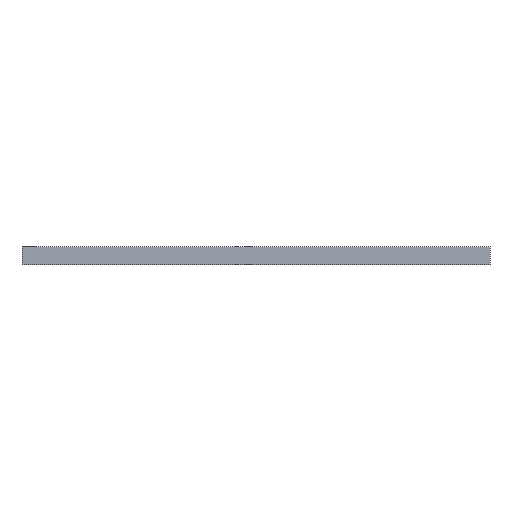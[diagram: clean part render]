
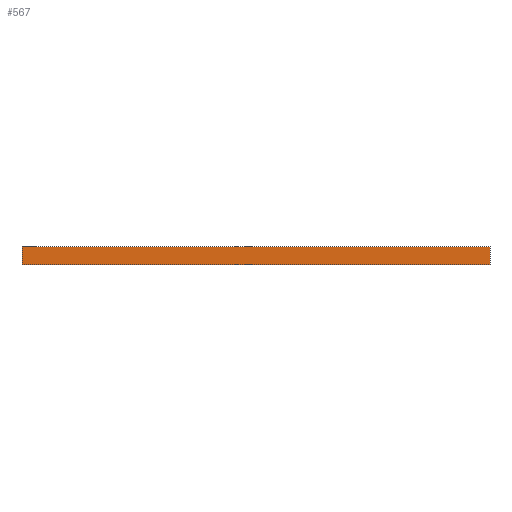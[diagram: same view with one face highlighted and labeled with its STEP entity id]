
A CAD part, front view. The second image highlights one B-rep face of the part: STEP entity #567.
In plain terms, the highlighted planar face has unit normal (0, -1, 0).
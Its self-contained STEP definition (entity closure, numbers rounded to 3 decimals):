
#351 = EDGE_CURVE('',#352,#354,#356,.T.);
#352 = VERTEX_POINT('',#353);
#353 = CARTESIAN_POINT('',(-20.5,-37.,-10.1));
#354 = VERTEX_POINT('',#355);
#355 = CARTESIAN_POINT('',(-20.5,-37.,-8.6));
#356 = SURFACE_CURVE('',#357,(#361,#373),.PCURVE_S1.);
#357 = LINE('',#358,#359);
#358 = CARTESIAN_POINT('',(-20.5,-37.,-10.1));
#359 = VECTOR('',#360,1.);
#360 = DIRECTION('',(0.,0.,1.));
#361 = PCURVE('',#362,#367);
#362 = PLANE('',#363);
#363 = AXIS2_PLACEMENT_3D('',#364,#365,#366);
#364 = CARTESIAN_POINT('',(-20.5,-37.,-10.1));
#365 = DIRECTION('',(1.,0.,0.));
#366 = DIRECTION('',(0.,0.,1.));
#367 = DEFINITIONAL_REPRESENTATION('',(#368),#372);
#368 = LINE('',#369,#370);
#369 = CARTESIAN_POINT('',(0.,0.));
#370 = VECTOR('',#371,1.);
#371 = DIRECTION('',(1.,0.));
#372 = ( GEOMETRIC_REPRESENTATION_CONTEXT(2) 
PARAMETRIC_REPRESENTATION_CONTEXT() REPRESENTATION_CONTEXT('2D SPACE',''
  ) );
#373 = PCURVE('',#374,#379);
#374 = PLANE('',#375);
#375 = AXIS2_PLACEMENT_3D('',#376,#377,#378);
#376 = CARTESIAN_POINT('',(-20.5,-37.,-10.1));
#377 = DIRECTION('',(0.,1.,0.));
#378 = DIRECTION('',(0.,0.,1.));
#379 = DEFINITIONAL_REPRESENTATION('',(#380),#384);
#380 = LINE('',#381,#382);
#381 = CARTESIAN_POINT('',(0.,0.));
#382 = VECTOR('',#383,1.);
#383 = DIRECTION('',(1.,0.));
#384 = ( GEOMETRIC_REPRESENTATION_CONTEXT(2) 
PARAMETRIC_REPRESENTATION_CONTEXT() REPRESENTATION_CONTEXT('2D SPACE',''
  ) );
#402 = PLANE('',#403);
#403 = AXIS2_PLACEMENT_3D('',#404,#405,#406);
#404 = CARTESIAN_POINT('',(-20.5,-37.,-10.1));
#405 = DIRECTION('',(0.,0.,1.));
#406 = DIRECTION('',(1.,0.,0.));
#456 = PLANE('',#457);
#457 = AXIS2_PLACEMENT_3D('',#458,#459,#460);
#458 = CARTESIAN_POINT('',(-20.5,-37.,-8.6));
#459 = DIRECTION('',(0.,0.,1.));
#460 = DIRECTION('',(1.,0.,0.));
#471 = EDGE_CURVE('',#472,#474,#476,.T.);
#472 = VERTEX_POINT('',#473);
#473 = CARTESIAN_POINT('',(18.5,-37.,-10.1));
#474 = VERTEX_POINT('',#475);
#475 = CARTESIAN_POINT('',(18.5,-37.,-8.6));
#476 = SURFACE_CURVE('',#477,(#481,#493),.PCURVE_S1.);
#477 = LINE('',#478,#479);
#478 = CARTESIAN_POINT('',(18.5,-37.,-10.1));
#479 = VECTOR('',#480,1.);
#480 = DIRECTION('',(0.,0.,1.));
#481 = PCURVE('',#482,#487);
#482 = PLANE('',#483);
#483 = AXIS2_PLACEMENT_3D('',#484,#485,#486);
#484 = CARTESIAN_POINT('',(18.5,-37.,-10.1));
#485 = DIRECTION('',(1.,0.,0.));
#486 = DIRECTION('',(0.,0.,1.));
#487 = DEFINITIONAL_REPRESENTATION('',(#488),#492);
#488 = LINE('',#489,#490);
#489 = CARTESIAN_POINT('',(0.,0.));
#490 = VECTOR('',#491,1.);
#491 = DIRECTION('',(1.,0.));
#492 = ( GEOMETRIC_REPRESENTATION_CONTEXT(2) 
PARAMETRIC_REPRESENTATION_CONTEXT() REPRESENTATION_CONTEXT('2D SPACE',''
  ) );
#493 = PCURVE('',#374,#494);
#494 = DEFINITIONAL_REPRESENTATION('',(#495),#499);
#495 = LINE('',#496,#497);
#496 = CARTESIAN_POINT('',(0.,39.));
#497 = VECTOR('',#498,1.);
#498 = DIRECTION('',(1.,0.));
#499 = ( GEOMETRIC_REPRESENTATION_CONTEXT(2) 
PARAMETRIC_REPRESENTATION_CONTEXT() REPRESENTATION_CONTEXT('2D SPACE',''
  ) );
#567 = ADVANCED_FACE('',(#568),#374,.F.);
#568 = FACE_BOUND('',#569,.F.);
#569 = EDGE_LOOP('',(#570,#591,#592,#613));
#570 = ORIENTED_EDGE('',*,*,#571,.F.);
#571 = EDGE_CURVE('',#352,#472,#572,.T.);
#572 = SURFACE_CURVE('',#573,(#577,#584),.PCURVE_S1.);
#573 = LINE('',#574,#575);
#574 = CARTESIAN_POINT('',(-20.5,-37.,-10.1));
#575 = VECTOR('',#576,1.);
#576 = DIRECTION('',(1.,0.,0.));
#577 = PCURVE('',#374,#578);
#578 = DEFINITIONAL_REPRESENTATION('',(#579),#583);
#579 = LINE('',#580,#581);
#580 = CARTESIAN_POINT('',(0.,0.));
#581 = VECTOR('',#582,1.);
#582 = DIRECTION('',(0.,1.));
#583 = ( GEOMETRIC_REPRESENTATION_CONTEXT(2) 
PARAMETRIC_REPRESENTATION_CONTEXT() REPRESENTATION_CONTEXT('2D SPACE',''
  ) );
#584 = PCURVE('',#402,#585);
#585 = DEFINITIONAL_REPRESENTATION('',(#586),#590);
#586 = LINE('',#587,#588);
#587 = CARTESIAN_POINT('',(0.,0.));
#588 = VECTOR('',#589,1.);
#589 = DIRECTION('',(1.,0.));
#590 = ( GEOMETRIC_REPRESENTATION_CONTEXT(2) 
PARAMETRIC_REPRESENTATION_CONTEXT() REPRESENTATION_CONTEXT('2D SPACE',''
  ) );
#591 = ORIENTED_EDGE('',*,*,#351,.T.);
#592 = ORIENTED_EDGE('',*,*,#593,.T.);
#593 = EDGE_CURVE('',#354,#474,#594,.T.);
#594 = SURFACE_CURVE('',#595,(#599,#606),.PCURVE_S1.);
#595 = LINE('',#596,#597);
#596 = CARTESIAN_POINT('',(-20.5,-37.,-8.6));
#597 = VECTOR('',#598,1.);
#598 = DIRECTION('',(1.,0.,0.));
#599 = PCURVE('',#374,#600);
#600 = DEFINITIONAL_REPRESENTATION('',(#601),#605);
#601 = LINE('',#602,#603);
#602 = CARTESIAN_POINT('',(1.5,0.));
#603 = VECTOR('',#604,1.);
#604 = DIRECTION('',(0.,1.));
#605 = ( GEOMETRIC_REPRESENTATION_CONTEXT(2) 
PARAMETRIC_REPRESENTATION_CONTEXT() REPRESENTATION_CONTEXT('2D SPACE',''
  ) );
#606 = PCURVE('',#456,#607);
#607 = DEFINITIONAL_REPRESENTATION('',(#608),#612);
#608 = LINE('',#609,#610);
#609 = CARTESIAN_POINT('',(0.,0.));
#610 = VECTOR('',#611,1.);
#611 = DIRECTION('',(1.,0.));
#612 = ( GEOMETRIC_REPRESENTATION_CONTEXT(2) 
PARAMETRIC_REPRESENTATION_CONTEXT() REPRESENTATION_CONTEXT('2D SPACE',''
  ) );
#613 = ORIENTED_EDGE('',*,*,#471,.F.);
